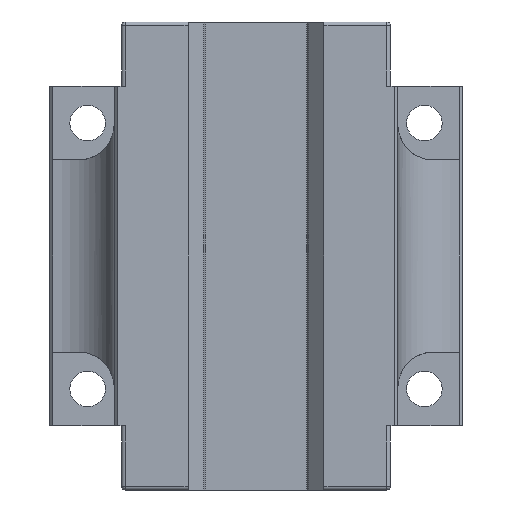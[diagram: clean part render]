
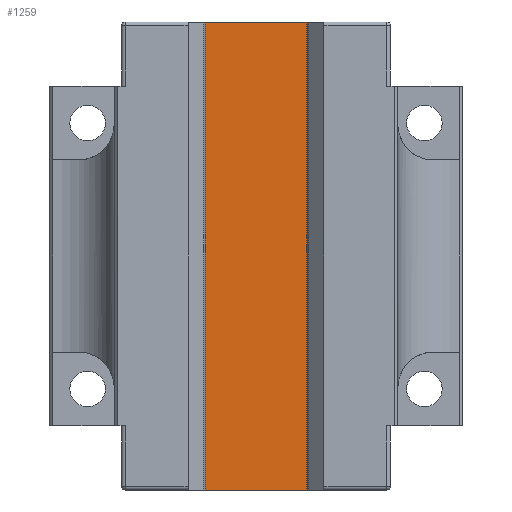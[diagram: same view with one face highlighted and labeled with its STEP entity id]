
A CAD part, front view. The second image highlights one B-rep face of the part: STEP entity #1259.
In plain terms, the highlighted planar face has unit normal (0, -1, 0).
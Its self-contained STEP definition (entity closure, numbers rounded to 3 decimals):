
#48 = VECTOR ( 'NONE', #2265, 1000. ) ;
#74 = VERTEX_POINT ( 'NONE', #313 ) ;
#226 = EDGE_CURVE ( 'NONE', #2023, #2868, #2692, .T. ) ;
#227 = CARTESIAN_POINT ( 'NONE',  ( -10.25, 19.2, 39.6 ) ) ;
#313 = CARTESIAN_POINT ( 'NONE',  ( -10.25, 19.2, -39.6 ) ) ;
#320 = AXIS2_PLACEMENT_3D ( 'NONE', #610, #605, #779 ) ;
#375 = LINE ( 'NONE', #2098, #2926 ) ;
#452 = VECTOR ( 'NONE', #641, 1000. ) ;
#555 = ORIENTED_EDGE ( 'NONE', *, *, #2908, .T. ) ;
#605 = DIRECTION ( 'NONE',  ( 0., 1., 0. ) ) ;
#610 = CARTESIAN_POINT ( 'NONE',  ( -11.5, 19.2, -39.6 ) ) ;
#626 = EDGE_CURVE ( 'NONE', #2708, #74, #1149, .T. ) ;
#641 = DIRECTION ( 'NONE',  ( -1., 0., 0. ) ) ;
#649 = ORIENTED_EDGE ( 'NONE', *, *, #626, .F. ) ;
#665 = DIRECTION ( 'NONE',  ( -1., 0., 0. ) ) ;
#779 = DIRECTION ( 'NONE',  ( 0., 0., 1. ) ) ;
#845 = CARTESIAN_POINT ( 'NONE',  ( -11.5, 19.2, 39.6 ) ) ;
#864 = VECTOR ( 'NONE', #665, 1000. ) ;
#1106 = DIRECTION ( 'NONE',  ( 0., 0., -1. ) ) ;
#1139 = CARTESIAN_POINT ( 'NONE',  ( 10.25, 19.2, 39.6 ) ) ;
#1149 = LINE ( 'NONE', #1568, #864 ) ;
#1259 = ADVANCED_FACE ( 'NONE', ( #2893 ), #1970, .F. ) ;
#1429 = ORIENTED_EDGE ( 'NONE', *, *, #226, .T. ) ;
#1458 = EDGE_CURVE ( 'NONE', #2868, #74, #375, .T. ) ;
#1568 = CARTESIAN_POINT ( 'NONE',  ( -11.5, 19.2, -39.6 ) ) ;
#1595 = CARTESIAN_POINT ( 'NONE',  ( 10.25, 19.2, 39.6 ) ) ;
#1850 = CARTESIAN_POINT ( 'NONE',  ( 10.25, 19.2, -39.6 ) ) ;
#1941 = EDGE_LOOP ( 'NONE', ( #649, #555, #1429, #2612 ) ) ;
#1970 = PLANE ( 'NONE',  #320 ) ;
#2023 = VERTEX_POINT ( 'NONE', #1139 ) ;
#2098 = CARTESIAN_POINT ( 'NONE',  ( -10.25, 19.2, -39.6 ) ) ;
#2265 = DIRECTION ( 'NONE',  ( 0., 0., 1. ) ) ;
#2572 = LINE ( 'NONE', #1595, #48 ) ;
#2612 = ORIENTED_EDGE ( 'NONE', *, *, #1458, .T. ) ;
#2692 = LINE ( 'NONE', #845, #452 ) ;
#2708 = VERTEX_POINT ( 'NONE', #1850 ) ;
#2868 = VERTEX_POINT ( 'NONE', #227 ) ;
#2893 = FACE_OUTER_BOUND ( 'NONE', #1941, .T. ) ;
#2908 = EDGE_CURVE ( 'NONE', #2708, #2023, #2572, .T. ) ;
#2926 = VECTOR ( 'NONE', #1106, 1000. ) ;
